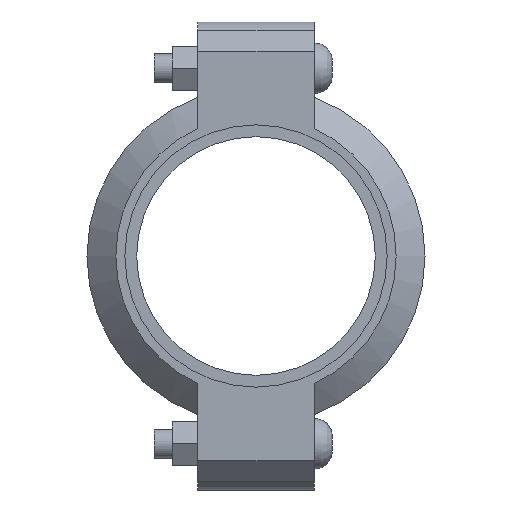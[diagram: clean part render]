
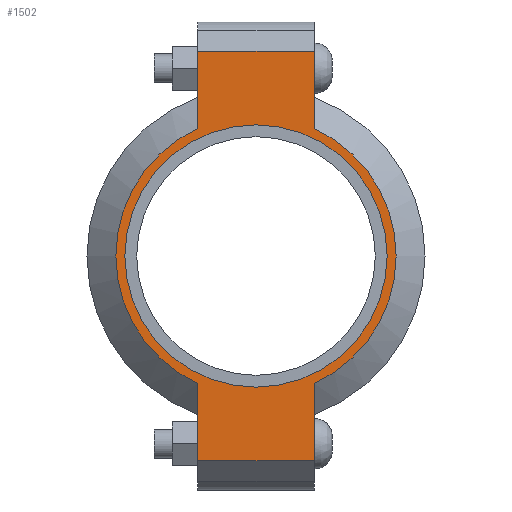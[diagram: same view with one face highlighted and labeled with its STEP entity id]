
A CAD part, left-side view. The second image highlights one B-rep face of the part: STEP entity #1502.
In plain terms, the highlighted planar face has unit normal (-1, 0, 0) as drawn and (0, 0, 1) by its records, which use the part's own axes.
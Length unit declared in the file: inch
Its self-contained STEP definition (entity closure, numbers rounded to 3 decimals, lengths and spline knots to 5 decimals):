
#126=LINE('',#2630,#219);
#134=LINE('',#2666,#227);
#141=LINE('',#2687,#234);
#150=LINE('',#2719,#243);
#151=LINE('',#2723,#244);
#152=LINE('',#2725,#245);
#219=VECTOR('',#2154,0.3937);
#227=VECTOR('',#2170,0.3937);
#234=VECTOR('',#2189,0.3937);
#243=VECTOR('',#2214,0.3937);
#244=VECTOR('',#2219,0.3937);
#245=VECTOR('',#2220,0.3937);
#301=FACE_BOUND('',#479,.T.);
#373=FACE_OUTER_BOUND('',#478,.T.);
#478=EDGE_LOOP('',(#1243,#1244,#1245,#1246,#1247,#1248,#1249,#1250));
#479=EDGE_LOOP('',(#1251));
#551=CIRCLE('',#1730,2.25);
#577=CIRCLE('',#1789,2.405);
#578=CIRCLE('',#1790,2.405);
#643=VERTEX_POINT('',#2446);
#686=VERTEX_POINT('',#2627);
#687=VERTEX_POINT('',#2629);
#698=VERTEX_POINT('',#2661);
#699=VERTEX_POINT('',#2665);
#706=VERTEX_POINT('',#2684);
#707=VERTEX_POINT('',#2686);
#717=VERTEX_POINT('',#2722);
#718=VERTEX_POINT('',#2724);
#799=EDGE_CURVE('',#643,#643,#551,.T.);
#860=EDGE_CURVE('',#687,#686,#126,.T.);
#874=EDGE_CURVE('',#699,#698,#134,.T.);
#884=EDGE_CURVE('',#707,#706,#141,.T.);
#899=EDGE_CURVE('',#699,#686,#150,.T.);
#900=EDGE_CURVE('',#698,#707,#577,.T.);
#901=EDGE_CURVE('',#717,#706,#151,.T.);
#902=EDGE_CURVE('',#717,#718,#152,.T.);
#903=EDGE_CURVE('',#718,#687,#578,.T.);
#1243=ORIENTED_EDGE('',*,*,#899,.F.);
#1244=ORIENTED_EDGE('',*,*,#874,.T.);
#1245=ORIENTED_EDGE('',*,*,#900,.T.);
#1246=ORIENTED_EDGE('',*,*,#884,.T.);
#1247=ORIENTED_EDGE('',*,*,#901,.F.);
#1248=ORIENTED_EDGE('',*,*,#902,.T.);
#1249=ORIENTED_EDGE('',*,*,#903,.T.);
#1250=ORIENTED_EDGE('',*,*,#860,.T.);
#1251=ORIENTED_EDGE('',*,*,#799,.T.);
#1344=PLANE('',#1788);
#1502=ADVANCED_FACE('',(#373,#301),#1344,.T.);
#1730=AXIS2_PLACEMENT_3D('',#2448,#2030,#2031);
#1788=AXIS2_PLACEMENT_3D('',#2720,#2215,#2216);
#1789=AXIS2_PLACEMENT_3D('',#2721,#2217,#2218);
#1790=AXIS2_PLACEMENT_3D('',#2726,#2221,#2222);
#2030=DIRECTION('center_axis',(0.,0.,-1.));
#2031=DIRECTION('ref_axis',(1.,0.,0.));
#2154=DIRECTION('',(1.,0.,0.));
#2170=DIRECTION('',(-1.,0.,0.));
#2189=DIRECTION('',(-1.,0.,0.));
#2214=DIRECTION('',(0.,-1.,0.));
#2215=DIRECTION('center_axis',(0.,0.,1.));
#2216=DIRECTION('ref_axis',(-1.,0.,0.));
#2217=DIRECTION('center_axis',(0.,0.,1.));
#2218=DIRECTION('ref_axis',(1.,0.,0.));
#2219=DIRECTION('',(0.,1.,0.));
#2220=DIRECTION('',(1.,0.,0.));
#2221=DIRECTION('center_axis',(0.,0.,1.));
#2222=DIRECTION('ref_axis',(1.,0.,0.));
#2446=CARTESIAN_POINT('',(-2.25,0.,1.065));
#2448=CARTESIAN_POINT('Origin',(0.,0.,1.065));
#2627=CARTESIAN_POINT('',(3.515,-1.,1.065));
#2629=CARTESIAN_POINT('',(2.18724,-1.,1.065));
#2630=CARTESIAN_POINT('',(4.015,-1.,1.065));
#2661=CARTESIAN_POINT('',(2.18724,1.,1.065));
#2665=CARTESIAN_POINT('',(3.515,1.,1.065));
#2666=CARTESIAN_POINT('',(-4.015,1.,1.065));
#2684=CARTESIAN_POINT('',(-3.515,1.,1.065));
#2686=CARTESIAN_POINT('',(-2.18724,1.,1.065));
#2687=CARTESIAN_POINT('',(-4.015,1.,1.065));
#2719=CARTESIAN_POINT('',(3.515,-0.5,1.065));
#2720=CARTESIAN_POINT('Origin',(0.,0.,
1.065));
#2721=CARTESIAN_POINT('Origin',(0.,0.,1.065));
#2722=CARTESIAN_POINT('',(-3.515,-1.,1.065));
#2723=CARTESIAN_POINT('',(-3.515,0.5,1.065));
#2724=CARTESIAN_POINT('',(-2.18724,-1.,1.065));
#2725=CARTESIAN_POINT('',(4.015,-1.,1.065));
#2726=CARTESIAN_POINT('Origin',(0.,0.,1.065));
